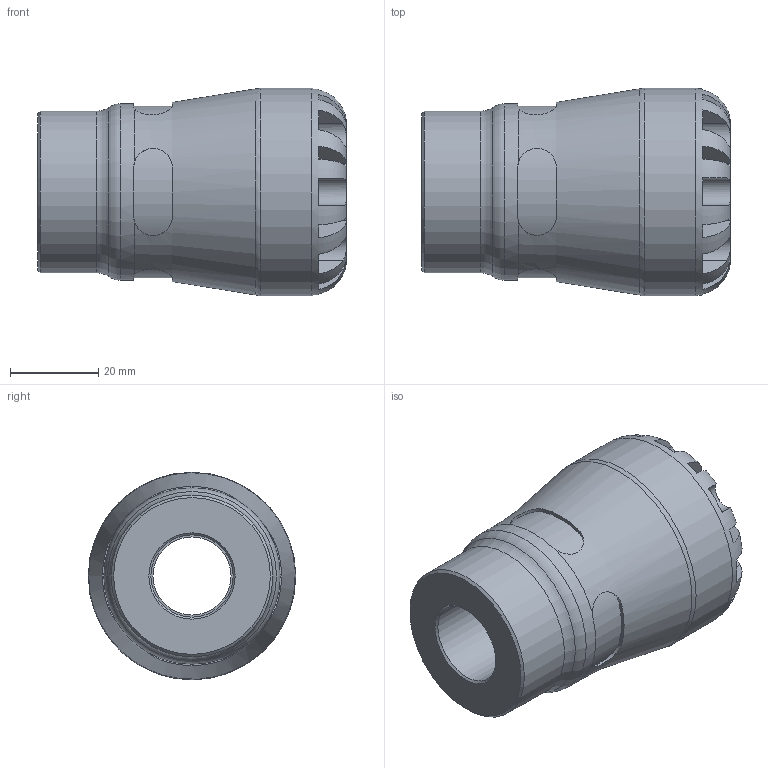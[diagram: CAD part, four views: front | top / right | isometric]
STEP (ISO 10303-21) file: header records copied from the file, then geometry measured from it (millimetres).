
FILE_DESCRIPTION(/* description */ ('PLASSON FEMALE ADAPTOR 25X1/2" SERIES 1'),/* implementation_level */ '2;1');
FILE_NAME(/* name */ 'C:\Dropbox\KIMPROJECTS-Inventor\99-16-3568-Processing\1003\100300025005_190300025005.ipt.step',/* time_stamp */ '2017-01-22T09:49:06+02:00',/* author */ ('KIM'),/* organization */ (''),/* preprocessor_version */ 'ST-DEVELOPER v15.6',/* originating_system */ 'Autodesk Inventor 2015',/* authorisation */ '');
FILE_SCHEMA (('AUTOMOTIVE_DESIGN { 1 0 10303 214 3 1 1 }'));
Length unit declared in the file: millimetre
Products named in the file (1): 100300025005_190300025005
Bounding box: 70 x 47 x 47 mm (x, y, z)
Volume: 64582.2 mm3; surface area: 17392.1 mm2
Topology: 1 solids, 1 shells, 104 faces, 265 edges, 166 vertices
Faces by surface type: plane 61, cylinder 35, torus 5, cone 3
Full cylindrical faces by diameter (mm): 17.699 x1, 18.631 x1, 20.833 x1, 25 x1, 36.66 x1, 39.95 x1, 47 x1
Entity records: 3962 total; most frequent: CARTESIAN_POINT 1471, ORIENTED_EDGE 492, DIRECTION 478, EDGE_CURVE 246, AXIS2_PLACEMENT_3D 199, VERTEX_POINT 162, EDGE_LOOP 124, STYLED_ITEM 105
